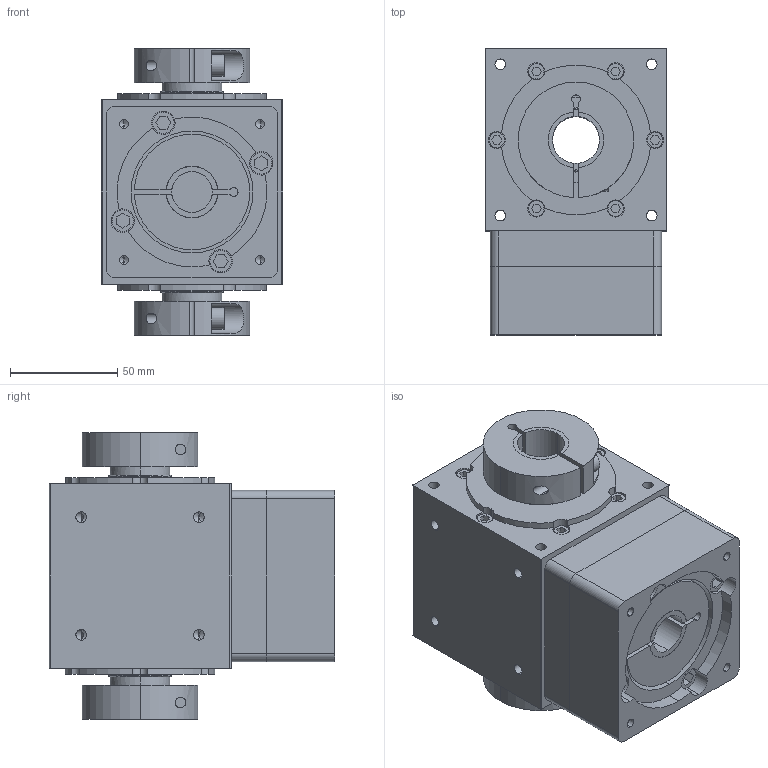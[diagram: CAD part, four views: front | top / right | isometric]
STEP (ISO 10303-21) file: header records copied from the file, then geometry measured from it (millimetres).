
FILE_DESCRIPTION (( 'STEP AP203' ), '1' );
FILE_NAME ('AT85-C2Ä£ÐÍ£¨19-35 70-3 4-5.5-90).STEP', '2021-11-29T08:50:27', ( '' ), ( '' ), 'SwSTEP 2.0', 'SolidWorks 2016', '' );
FILE_SCHEMA (( 'CONFIG_CONTROL_DESIGN' ));
Length unit declared in the file: millimetre
Products named in the file (1): AT85-C2模型（19-35 70-3 4-5.5-90)
Bounding box: 85 x 133.5 x 134 mm (x, y, z)
Volume: 920309.7 mm3; surface area: 128398.8 mm2
Topology: 2 solids, 2 shells, 493 faces, 1241 edges, 802 vertices
Faces by surface type: plane 246, cylinder 219, cone 24, torus 4
Entity records: 15134 total; most frequent: CARTESIAN_POINT 2801, DIRECTION 2687, ORIENTED_EDGE 2450, EDGE_CURVE 1225, AXIS2_PLACEMENT_3D 982, VERTEX_POINT 802, VECTOR 723, LINE 723
